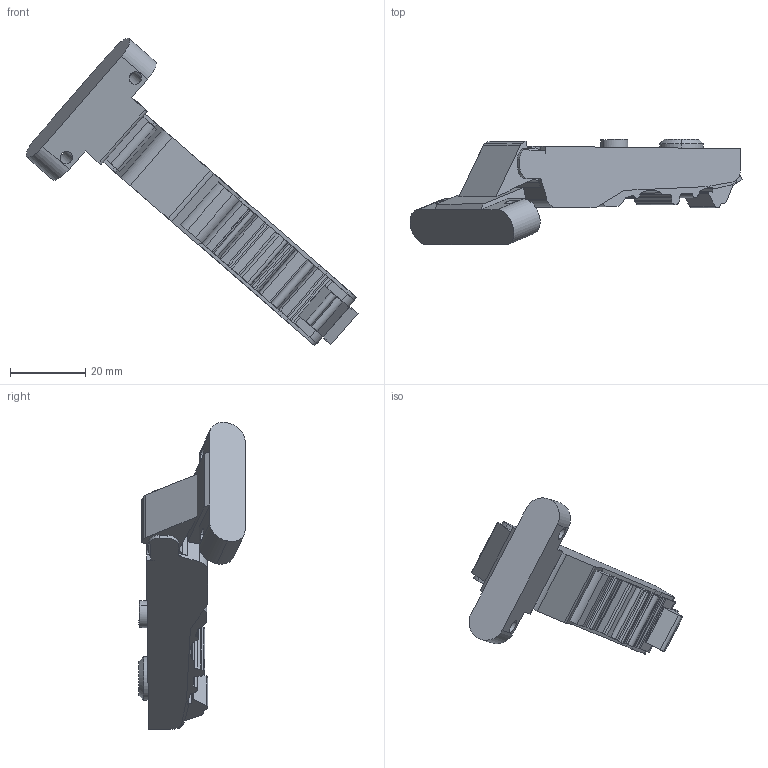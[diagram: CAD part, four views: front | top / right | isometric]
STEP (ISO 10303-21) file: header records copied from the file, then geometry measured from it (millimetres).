
FILE_DESCRIPTION (( 'STEP AP203' ), '1' );
FILE_NAME ('C82A678FA-DTC 3D open.STEP', '2025-07-21T02:11:43', ( '微软用户' ), ( '微软中国' ), 'SwSTEP 2.0', 'SolidWorks 2021', '' );
FILE_SCHEMA (( 'CONFIG_CONTROL_DESIGN' ));
Length unit declared in the file: millimetre
Products named in the file (1): C82A678FA-DTC 3D open
Bounding box: 88.29 x 28.2 x 81.69 mm (x, y, z)
Volume: 23276.5 mm3; surface area: 8041.9 mm2
Topology: 1 solids, 1 shells, 263 faces, 735 edges, 488 vertices
Faces by surface type: plane 124, cylinder 78, bspline 48, torus 8, cone 5
Entity records: 11351 total; most frequent: CARTESIAN_POINT 4752, ORIENTED_EDGE 1470, DIRECTION 1194, EDGE_CURVE 735, VERTEX_POINT 488, VECTOR 448, LINE 448, AXIS2_PLACEMENT_3D 373
